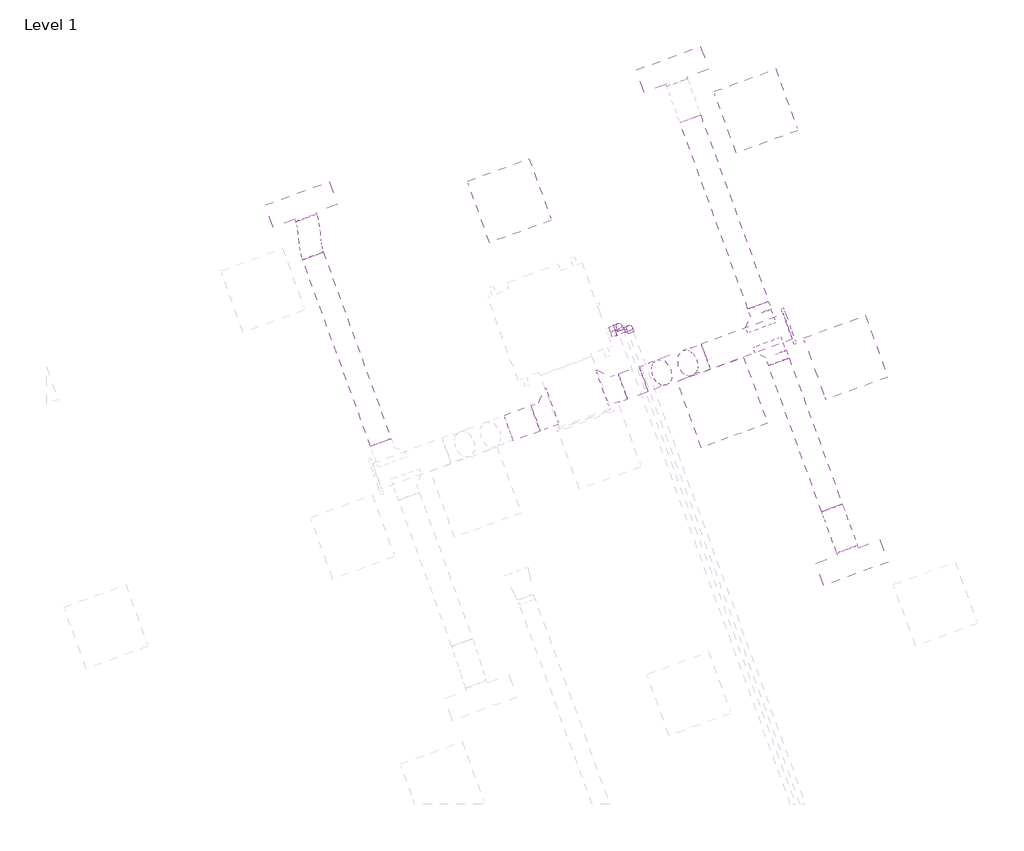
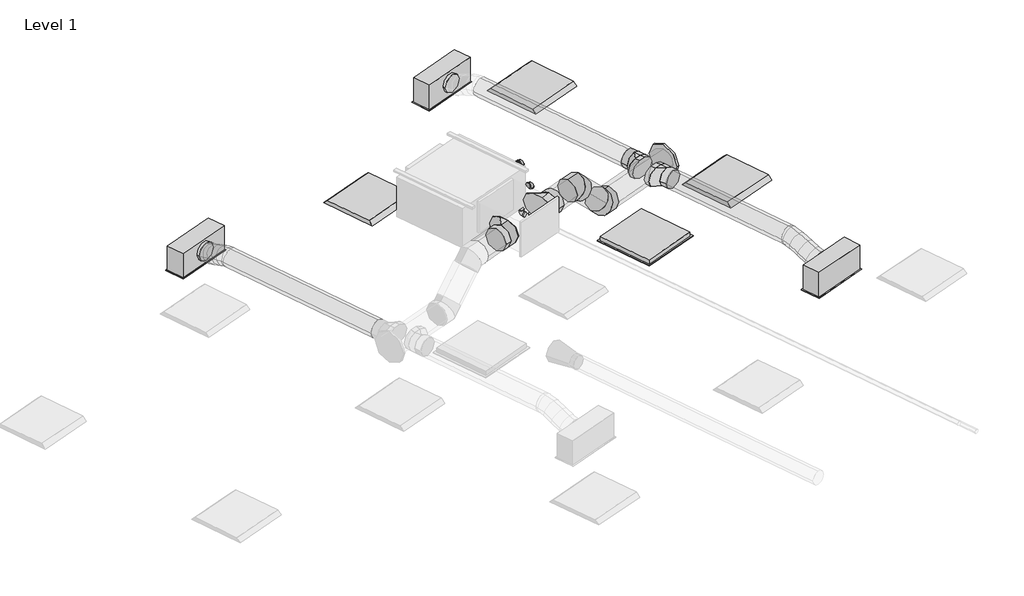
# One storey, part 29 of 30: 9 duct segments, 7 duct fittings, 6 pipe fittings, 4 air terminals, 3 light fixtures, 1 pipe segment.
"""IFC4 building model written with IfcOpenShell, lengths in millimetres."""

from ifc_helpers import new_model, si_unit, point, frame, frame_2d, origin, place, context, project, spatial, circle_curve, ellipse_curve, trimmed, segment, composite_curve, outline, extrude, transform, mapped, element, save
from ifc_brep_helpers import plane_surface, cylinder_surface, advanced_brep
from components import return_grille_rectangular_hosted_standard_7b12617c, supply_diffuser_with_plenum_linear_slot_hosted_8c379eed, dw144_round_blank_end_standard_e3d0b58b, dw144_round_segmented_bend_slip_joint_standard_636bd9c1, dw144_round_shoe_branch_slip_joint1_standard_2_15a2edd8, dw144_round_shoe_branch_slip_joint1_standard_2_4a92c8a1, dw144_round_shoe_branch_slip_joint1_standard_2_671412f0, light_fixture_1c7c1157, light_fixture_b730b5ca, elbow_threaded_gmi_standard_b4aa7741, socket_reducing_threaded_gmi_standard_0a4076b8

model = new_model("IFC4")

# Units and contexts
model_context = context("Model", 3, world=origin())
ifc_project = project(units=[si_unit("LENGTHUNIT", "METRE", prefix="MILLI")], contexts=[model_context])

# Site, building, storey
site = spatial("IfcSite", under=ifc_project)
building = spatial("IfcBuilding", under=site)
storey = spatial("IfcBuildingStorey", under=building, Name="Level 1", Elevation=3900.0)

# Air terminals
placement = place(None, origin())
return_grille_rectangular_hosted_standard_shape = return_grille_rectangular_hosted_standard_7b12617c(model_context)
element("IfcAirTerminal", 1, ObjectType="Return Grille - Rectangular - Hosted : Standard", at=placement, inside=storey, context=model_context, shape_type="MappedRepresentation", body=[
    mapped(return_grille_rectangular_hosted_standard_shape, transform((59882.1171416, 21518.6590285, 6700.0), x_axis=(0.939692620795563, 0.34202014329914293, 0.0), y_axis=(0.34202014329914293, -0.939692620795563, 0.0), z_axis=(0.0, 0.0, -1.0))),
])
supply_diffuser_with_plenum_linear_slot_hosted_shape = supply_diffuser_with_plenum_linear_slot_hosted_8c379eed(model_context)
element("IfcAirTerminal", 2, ObjectType="Supply Diffuser with Plenum - Linear Slot - Hosted : 24\" x 8\"-200 In Inlet  4-Slot", at=placement, inside=storey, context=model_context, shape_type="MappedRepresentation", body=[
    mapped(supply_diffuser_with_plenum_linear_slot_hosted_shape, transform((56030.8737895, 23328.4499742, 6700.0), x_axis=(-0.9396926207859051, -0.3420201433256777, 0.0), y_axis=(-0.3420201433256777, 0.9396926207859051, 0.0), z_axis=(0.0, 0.0, -1.0))),
])
element("IfcAirTerminal", 3, ObjectType="Supply Diffuser with Plenum - Linear Slot - Hosted : 24\" x 8\"-200 In Inlet  4-Slot", at=placement, inside=storey, context=model_context, shape_type="MappedRepresentation", body=[
    mapped(supply_diffuser_with_plenum_linear_slot_hosted_shape, transform((59424.7616276, 24563.7241257, 6700.0), x_axis=(-0.9396926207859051, -0.3420201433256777, 0.0), y_axis=(-0.3420201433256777, 0.9396926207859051, 0.0), z_axis=(0.0, 0.0, -1.0))),
])
element("IfcAirTerminal", 4, ObjectType="Supply Diffuser with Plenum - Linear Slot - Hosted : 24\" x 8\"-200 In Inlet  4-Slot", at=placement, inside=storey, context=model_context, shape_type="MappedRepresentation", body=[
    mapped(supply_diffuser_with_plenum_linear_slot_hosted_shape, transform((61066.4583156, 20053.199546, 6700.0), x_axis=(0.939692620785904, 0.342020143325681, 0.0), y_axis=(0.342020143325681, -0.939692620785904, 0.0), z_axis=(0.0, 0.0, -1.0))),
])

# Duct fittings
dw144_round_blank_end_standard_shape = dw144_round_blank_end_standard_e3d0b58b(model_context)
element("IfcDuctFitting", 5, ObjectType="DW144 Round Blank End : Standard", at=placement, inside=storey, context=model_context, shape_type="MappedRepresentation", body=[
    mapped(dw144_round_blank_end_standard_shape, transform((60480.0687344, 22212.6690304, 6972.2088531), x_axis=(0.9396926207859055, 0.3420201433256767, 0.0), y_axis=(-0.3420201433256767, 0.9396926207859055, 0.0), z_axis=(0.0, 0.0, 1.0))),
])
dw144_round_segmented_bend_slip_joint_standard_shape = dw144_round_segmented_bend_slip_joint_standard_636bd9c1(model_context)
element("IfcDuctFitting", 6, ObjectType="DW144 Round Segmented Bend - Slip Joint : Standard", at=placement, inside=storey, context=model_context, shape_type="MappedRepresentation", body=[
    mapped(dw144_round_segmented_bend_slip_joint_standard_shape, transform((59632.1186201, 21904.0404287, 6972.2088531), x_axis=(0.6644630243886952, 0.24184476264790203, -0.7071067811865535), y_axis=(0.6644630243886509, 0.2418447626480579, 0.7071067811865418), z_axis=(0.3420201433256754, -0.939692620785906, 0.0))),
])
element("IfcDuctFitting", 7, ObjectType="DW144 Round Segmented Bend - Slip Joint : Standard", at=placement, inside=storey, context=model_context, shape_type="MappedRepresentation", body=[
    mapped(dw144_round_segmented_bend_slip_joint_standard_shape, transform((59258.7165841, 21768.1332022, 7369.575), x_axis=(0.9396926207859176, 0.3420201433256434, 0.0), y_axis=(0.0, 0.0, -1.0), z_axis=(-0.3420201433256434, 0.9396926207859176, 0.0))),
])
dw144_round_shoe_branch_slip_joint1_standard_2_shape = dw144_round_shoe_branch_slip_joint1_standard_2_15a2edd8(model_context)
element("IfcDuctFitting", 8, ObjectType="DW144 Round Shoe Branch - Slip Joint1 : Standard 2", at=placement, inside=storey, context=model_context, shape_type="MappedRepresentation", body=[
    mapped(dw144_round_shoe_branch_slip_joint1_standard_2_shape, transform((60261.0711331, 22265.9826437, 6972.2088531), x_axis=(-0.3420201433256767, 0.9396926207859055, 0.0), y_axis=(0.9396926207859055, 0.3420201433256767, 0.0), z_axis=(0.0, 0.0, -1.0))),
])
element("IfcDuctFitting", 9, ObjectType="DW144 Round Shoe Branch - Slip Joint1 : Standard 2", at=placement, inside=storey, context=model_context, shape_type="MappedRepresentation", body=[
    mapped(dw144_round_shoe_branch_slip_joint1_standard_2_shape, transform((60346.5761689, 22031.0594885, 6972.2088531), x_axis=(0.3420201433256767, -0.9396926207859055, 0.0), y_axis=(0.9396926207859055, 0.3420201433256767, 0.0), z_axis=(0.0, 0.0, 1.0))),
])
dw144_round_shoe_branch_slip_joint1_standard_2_2_shape = dw144_round_shoe_branch_slip_joint1_standard_2_4a92c8a1(model_context)
element("IfcDuctFitting", 10, ObjectType="DW144 Round Shoe Branch - Slip Joint1 : Standard 2", at=placement, inside=storey, context=model_context, shape_type="MappedRepresentation", body=[
    mapped(dw144_round_shoe_branch_slip_joint1_standard_2_2_shape, transform((58807.6641261, 21603.9635334, 7369.575), x_axis=(0.9396926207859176, 0.3420201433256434, 0.0), y_axis=(0.3420201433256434, -0.9396926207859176, 0.0), z_axis=(0.0, 0.0, -1.0))),
])
dw144_round_shoe_branch_slip_joint1_standard_2_3_shape = dw144_round_shoe_branch_slip_joint1_standard_2_671412f0(model_context)
element("IfcDuctFitting", 11, ObjectType="DW144 Round Shoe Branch - Slip Joint1 : Standard 2", at=placement, inside=storey, context=model_context, shape_type="MappedRepresentation", body=[
    mapped(dw144_round_shoe_branch_slip_joint1_standard_2_3_shape, transform((58337.8178157, 21432.9534617, 7369.575), x_axis=(-0.9396926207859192, -0.3420201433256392, 0.0), y_axis=(-0.3420201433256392, 0.9396926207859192, 0.0), z_axis=(0.0, 0.0, -1.0))),
])

# Duct segments
element("IfcDuctSegment", 12, ObjectType="DW144 Segmented Bend / Shoe Branch", at=placement, inside=storey, context=model_context, shape_type="SweptSolid", body=[
    extrude(outline(composite_curve([segment(trimmed(circle_curve(frame_2d((0.0, -125.0)), 125.0), [point((-125.0, -125.0))], [point((0.0, 0.0))], False, "CARTESIAN"), True, "CONTINUOUS"), segment(trimmed(circle_curve(frame_2d((0.0, -125.0)), 125.0), [point((0.0, 0.0))], [point((125.0, -125.0))], False, "CARTESIAN"), True, "CONTINUOUS"), segment(trimmed(circle_curve(frame_2d((0.0, -125.0)), 125.0), [point((125.0, -125.0))], [point((0.0, -250.0))], False, "CARTESIAN"), True, "CONTINUOUS"), segment(trimmed(circle_curve(frame_2d((0.0, -125.0)), 125.0), [point((0.0, -250.0))], [point((-125.0, -125.0))], False, "CARTESIAN"), True, "CONTINUOUS")], self_intersect=False)), frame((59729.4269771, 21939.4577742, 6847.2088531), z_axis=(0.9396926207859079, 0.3420201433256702, 0.0), x_axis=(0.3420201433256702, -0.9396926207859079, 0.0)), (0.0, 0.0, 1.0), 798.8162732),
])
element("IfcDuctSegment", 13, ObjectType="DW144 Segmented Bend / Shoe Branch", at=placement, inside=storey, context=model_context, shape_type="SweptSolid", body=[
    extrude(outline(composite_curve([segment(trimmed(circle_curve(frame_2d((0.0, 100.0)), 100.0), [point((100.0, 100.0))], [point((0.0, 0.0))], False, "CARTESIAN"), True, "CONTINUOUS"), segment(trimmed(circle_curve(frame_2d((0.0, 100.0)), 100.0), [point((0.0, 0.0))], [point((-100.0, 100.0))], False, "CARTESIAN"), True, "CONTINUOUS"), segment(trimmed(circle_curve(frame_2d((0.0, 100.0)), 100.0), [point((-100.0, 100.0))], [point((0.0, 200.0))], False, "CARTESIAN"), True, "CONTINUOUS"), segment(trimmed(circle_curve(frame_2d((0.0, 100.0)), 100.0), [point((0.0, 200.0))], [point((100.0, 100.0))], False, "CARTESIAN"), True, "CONTINUOUS")], self_intersect=False)), frame((60209.7681116, 22406.9365369, 7072.2088531), z_axis=(-0.3420201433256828, 0.9396926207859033, 0.0), x_axis=(0.9396926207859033, 0.3420201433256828, 0.0)), (0.0, 0.0, 1.0), 1816.9035933),
])
element("IfcDuctSegment", 14, ObjectType="DW144 Segmented Bend / Shoe Branch", at=placement, inside=storey, context=model_context, shape_type="SweptSolid", body=[
    extrude(outline(composite_curve([segment(trimmed(circle_curve(frame_2d((0.0, -100.0)), 100.0), [point((-99.9999999, -100.0))], [point((0.0, 0.0))], False, "CARTESIAN"), True, "CONTINUOUS"), segment(trimmed(circle_curve(frame_2d((0.0, -100.0)), 100.0), [point((0.0, 0.0))], [point((100.0, -100.0))], False, "CARTESIAN"), True, "CONTINUOUS"), segment(trimmed(circle_curve(frame_2d((0.0, -100.0)), 100.0), [point((100.0, -100.0))], [point((0.0, -200.0))], False, "CARTESIAN"), True, "CONTINUOUS"), segment(trimmed(circle_curve(frame_2d((0.0, -100.0)), 100.0), [point((0.0, -200.0))], [point((-99.9999999, -100.0))], False, "CARTESIAN"), True, "CONTINUOUS")], self_intersect=False)), frame((60884.6068274, 20552.8324034, 6872.2088531), z_axis=(-0.3420201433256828, 0.9396926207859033, 0.0), x_axis=(0.9396926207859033, 0.3420201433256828, 0.0)), (0.0, 0.0, 1.0), 1423.0964067),
])
element("IfcDuctSegment", 15, ObjectType="DW144 Segmented Bend / Shoe Branch", at=placement, inside=storey, context=model_context, shape_type="SweptSolid", body=[
    extrude(outline(composite_curve([segment(trimmed(circle_curve(frame_2d((0.0, -100.0)), 100.0), [point((-99.9999999, -100.0))], [point((0.0, 0.0))], False, "CARTESIAN"), True, "CONTINUOUS"), segment(trimmed(circle_curve(frame_2d((0.0, -100.0)), 100.0), [point((0.0, 0.0))], [point((100.0, -100.0))], False, "CARTESIAN"), True, "CONTINUOUS"), segment(trimmed(circle_curve(frame_2d((0.0, -100.0)), 100.0), [point((100.0, -100.0))], [point((0.0, -200.0))], False, "CARTESIAN"), True, "CONTINUOUS"), segment(trimmed(circle_curve(frame_2d((0.0, -100.0)), 100.0), [point((0.0, -200.0))], [point((-99.9999999, -100.0))], False, "CARTESIAN"), True, "CONTINUOUS")], self_intersect=False)), frame((56758.3225226, 21150.7130773, 6872.2088531), z_axis=(-0.3420201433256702, 0.9396926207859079, 0.0), x_axis=(0.9396926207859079, 0.3420201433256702, 0.0)), (0.0, 0.0, 1.0), 1816.9035933),
])
element("IfcDuctSegment", 16, ObjectType="DW144 Segmented Bend / Shoe Branch", at=placement, inside=storey, context=model_context, shape_type="SweptSolid", body=[
    extrude(outline(composite_curve([segment(trimmed(circle_curve(frame_2d((0.0, 125.0)), 125.0), [point((125.0, 125.0))], [point((0.0, 0.0))], False, "CARTESIAN"), True, "CONTINUOUS"), segment(trimmed(circle_curve(frame_2d((0.0, 125.0)), 125.0), [point((0.0, 0.0))], [point((-124.9999999, 125.0))], False, "CARTESIAN"), True, "CONTINUOUS"), segment(trimmed(circle_curve(frame_2d((0.0, 125.0)), 125.0), [point((-124.9999999, 125.0))], [point((0.0, 250.0))], False, "CARTESIAN"), True, "CONTINUOUS"), segment(trimmed(circle_curve(frame_2d((0.0, 125.0)), 125.0), [point((0.0, 250.0))], [point((125.0, 125.0))], False, "CARTESIAN"), True, "CONTINUOUS")], self_intersect=False)), frame((58972.1103348, 21663.8170585, 7494.575), z_axis=(0.9396926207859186, 0.3420201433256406, 0.0), x_axis=(0.3420201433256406, -0.9396926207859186, 0.0)), (0.0, 0.0, 1.0), 201.4466094),
])
element("IfcDuctSegment", 17, ObjectType="DW144 Segmented Bend / Shoe Branch", at=placement, inside=storey, context=model_context, shape_type="SweptSolid", body=[
    extrude(outline(composite_curve([segment(trimmed(circle_curve(frame_2d((0.0, -125.0)), 125.0), [point((-125.0, -125.0))], [point((0.0, 0.0))], False, "CARTESIAN"), True, "CONTINUOUS"), segment(trimmed(circle_curve(frame_2d((0.0, -125.0)), 125.0), [point((0.0, 0.0))], [point((125.0, -125.0))], False, "CARTESIAN"), True, "CONTINUOUS"), segment(trimmed(circle_curve(frame_2d((0.0, -125.0)), 125.0), [point((125.0, -125.0))], [point((0.0, -250.0))], False, "CARTESIAN"), True, "CONTINUOUS"), segment(trimmed(circle_curve(frame_2d((0.0, -125.0)), 125.0), [point((0.0, -250.0))], [point((-125.0, -125.0))], False, "CARTESIAN"), True, "CONTINUOUS")], self_intersect=False)), frame((57927.6921575, 21283.6799298, 7244.575), z_axis=(0.9396926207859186, 0.3420201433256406, 0.0), x_axis=(0.3420201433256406, -0.9396926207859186, 0.0)), (0.0, 0.0, 1.0), 261.4466094),
])
element("IfcDuctSegment", 18, ObjectType="DW144 Segmented Bend / Shoe Branch", at=placement, inside=storey, context=model_context, shape_type="SweptSolid", body=[
    extrude(outline(composite_curve([segment(trimmed(circle_curve(frame_2d((0.0, -125.0)), 125.0), [point((57.2076922, -236.1408113))], [point((-111.1408114, -182.2076922))], False, "CARTESIAN"), True, "CONTINUOUS"), segment(trimmed(circle_curve(frame_2d((0.0, -125.0)), 125.0), [point((-111.1408114, -182.2076922))], [point((-57.2076923, -13.8591886))], False, "CARTESIAN"), True, "CONTINUOUS"), segment(trimmed(circle_curve(frame_2d((0.0, -125.0)), 125.0), [point((-57.2076923, -13.8591886))], [point((111.1408113, -67.7923077))], False, "CARTESIAN"), True, "CONTINUOUS"), segment(trimmed(circle_curve(frame_2d((0.0, -125.0)), 125.0), [point((111.1408113, -67.7923077))], [point((57.2076922, -236.1408113))], False, "CARTESIAN"), True, "CONTINUOUS")], self_intersect=False)), frame((59563.311221, 21997.2701645, 7085.884105), z_axis=(-0.6644630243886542, -0.2418447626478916, 0.7071067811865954), x_axis=(0.7473211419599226, -0.21503058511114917, 0.6287073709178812)), (0.0, 0.0, 1.0), 354.8538129),
])
element("IfcDuctSegment", 19, ObjectType="Flex - Round", at=placement, inside=storey, context=model_context, shape_type="AdvancedBrep", body=[
    advanced_brep(
    [(60978.5760895, 20587.0344177, 6972.2088531), (60884.6068274, 20552.8324034, 6872.2088531), (60790.6375654, 20518.630389, 6972.2088531), (60884.6068274, 20552.8324034, 7072.2088531), (60984.6341083, 20570.390148, 6972.2088531), (60886.9856485, 20546.2966462, 6872.2088531), (60796.6955841, 20501.9861193, 6972.2088531), (60894.3440439, 20526.0796211, 7072.2088531), (61116.3411812, 20208.5279391, 6854.4), (61022.3719191, 20174.3259248, 6954.4), (60928.402657, 20140.1239105, 6854.4), (61022.3719191, 20174.3259248, 6754.4), (61013.5584383, 20490.9212042, 6953.8012198), (60909.4076043, 20484.6928288, 6857.9393734), (60825.6199142, 20422.5171755, 6953.8012198), (60929.7707482, 20428.7455509, 7049.6630662), (61047.4586353, 20397.7811784, 6913.3044266), (60940.5534043, 20399.1204467, 6820.7329518), (60859.5201112, 20329.3771497, 6913.3044266), (60966.4253422, 20328.0378815, 7005.8759013), (61081.3588323, 20304.6411526, 6872.8076333), (60977.2079983, 20298.4127773, 6776.9457869), (60893.4203082, 20236.237124, 6872.8076333), (60997.5711422, 20242.4654993, 6968.6694797), (61110.2831624, 20225.1722089, 6854.4), (61012.6347027, 20201.0787071, 6754.4), (60922.3446383, 20156.7681802, 6854.4), (61019.993098, 20180.861682, 6954.4)],
    [
        (0, 1, circle_curve(frame((60884.6068274, 20552.8324034, 6972.2088531), z_axis=(-0.3420201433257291, 0.9396926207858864, 0.0), x_axis=(0.9396926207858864, 0.3420201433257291, 0.0)), 100.0)),
        (1, 2, circle_curve(frame((60884.6068274, 20552.8324034, 6972.2088531), z_axis=(-0.3420201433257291, 0.9396926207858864, 0.0), x_axis=(0.9396926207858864, 0.3420201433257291, 0.0)), 100.0)),
        (2, 3, circle_curve(frame((60884.6068274, 20552.8324034, 6972.2088531), z_axis=(-0.3420201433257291, 0.9396926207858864, 0.0), x_axis=(0.9396926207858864, 0.3420201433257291, 0.0)), 100.0)),
        (3, 0, circle_curve(frame((60884.6068274, 20552.8324034, 6972.2088531), z_axis=(-0.3420201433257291, 0.9396926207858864, 0.0), x_axis=(0.9396926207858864, 0.3420201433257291, 0.0)), 100.0)),
        (0, 4),
        (4, 5, ellipse_curve(frame((60890.6648462, 20536.1881336, 6972.2088531), z_axis=(-0.34005825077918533, 0.9343023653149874, 0.1069554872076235), x_axis=(-0.03658093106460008, 0.10050528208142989, -0.9942638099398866)), 100.5769284, 100.0)),
        (5, 1),
        (5, 6, ellipse_curve(frame((60890.6648462, 20536.1881336, 6972.2088531), z_axis=(-0.34005825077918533, 0.9343023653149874, 0.1069554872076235), x_axis=(-0.03658093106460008, 0.10050528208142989, -0.9942638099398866)), 100.5769284, 100.0)),
        (6, 2),
        (6, 7, ellipse_curve(frame((60890.6648462, 20536.1881336, 6972.2088531), z_axis=(-0.34005825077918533, 0.9343023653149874, 0.1069554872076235), x_axis=(-0.03658093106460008, 0.10050528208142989, -0.9942638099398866)), 100.5769284, 100.0)),
        (7, 3),
        (7, 4, ellipse_curve(frame((60890.6648462, 20536.1881336, 6972.2088531), z_axis=(-0.34005825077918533, 0.9343023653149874, 0.1069554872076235), x_axis=(-0.03658093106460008, 0.10050528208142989, -0.9942638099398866)), 100.5769284, 100.0)),
        (8, 9, circle_curve(frame((61022.3719191, 20174.3259248, 6854.4), z_axis=(0.3420201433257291, -0.9396926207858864, 0.0), x_axis=(0.9396926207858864, 0.3420201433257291, 0.0)), 100.0)),
        (9, 10, circle_curve(frame((61022.3719191, 20174.3259248, 6854.4), z_axis=(0.3420201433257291, -0.9396926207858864, 0.0), x_axis=(0.9396926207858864, 0.3420201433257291, 0.0)), 100.0)),
        (10, 11, circle_curve(frame((61022.3719191, 20174.3259248, 6854.4), z_axis=(0.3420201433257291, -0.9396926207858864, 0.0), x_axis=(0.9396926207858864, 0.3420201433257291, 0.0)), 100.0)),
        (11, 8, circle_curve(frame((61022.3719191, 20174.3259248, 6854.4), z_axis=(0.3420201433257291, -0.9396926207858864, 0.0), x_axis=(0.9396926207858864, 0.3420201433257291, 0.0)), 100.0)),
        (4, 12),
        (12, 13, ellipse_curve(frame((60919.5891763, 20456.7191898, 6953.8012198), z_axis=(-0.32663313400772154, 0.8974171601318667, 0.2965691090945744), x_axis=(-0.10143260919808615, 0.2786838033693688, -0.9550113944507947)), 100.3776991, 100.0)),
        (13, 5),
        (13, 14, ellipse_curve(frame((60919.5891763, 20456.7191898, 6953.8012198), z_axis=(-0.32663313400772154, 0.8974171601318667, 0.2965691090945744), x_axis=(-0.10143260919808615, 0.2786838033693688, -0.9550113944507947)), 100.3776991, 100.0)),
        (14, 6),
        (14, 15, ellipse_curve(frame((60919.5891763, 20456.7191898, 6953.8012198), z_axis=(-0.32663313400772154, 0.8974171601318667, 0.2965691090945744), x_axis=(-0.10143260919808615, 0.2786838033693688, -0.9550113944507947)), 100.3776991, 100.0)),
        (15, 7),
        (15, 12, ellipse_curve(frame((60919.5891763, 20456.7191898, 6953.8012198), z_axis=(-0.32663313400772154, 0.8974171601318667, 0.2965691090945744), x_axis=(-0.10143260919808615, 0.2786838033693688, -0.9550113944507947)), 100.3776991, 100.0)),
        (12, 16),
        (16, 17, circle_curve(frame((60953.4893733, 20363.5791641, 6913.3044266), z_axis=(-0.3166130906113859, 0.8698873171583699, 0.3782224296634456), x_axis=(0.939692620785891, 0.34202014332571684, 0.0)), 100.0)),
        (17, 13),
        (17, 18, circle_curve(frame((60953.4893733, 20363.5791641, 6913.3044266), z_axis=(-0.3166130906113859, 0.8698873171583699, 0.3782224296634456), x_axis=(0.939692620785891, 0.34202014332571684, 0.0)), 100.0)),
        (18, 14),
        (18, 19, circle_curve(frame((60953.4893733, 20363.5791641, 6913.3044266), z_axis=(-0.3166130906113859, 0.8698873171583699, 0.3782224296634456), x_axis=(0.939692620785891, 0.34202014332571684, 0.0)), 100.0)),
        (19, 15),
        (19, 16, circle_curve(frame((60953.4893733, 20363.5791641, 6913.3044266), z_axis=(-0.3166130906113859, 0.8698873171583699, 0.3782224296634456), x_axis=(0.939692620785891, 0.34202014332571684, 0.0)), 100.0)),
        (16, 20),
        (20, 21, ellipse_curve(frame((60987.3895703, 20270.4391383, 6872.8076333), z_axis=(-0.3266331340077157, 0.8974171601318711, 0.2965691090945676), x_axis=(0.10143260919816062, -0.2786838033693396, 0.9550113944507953)), 100.3776991, 100.0)),
        (21, 17),
        (21, 22, ellipse_curve(frame((60987.3895703, 20270.4391383, 6872.8076333), z_axis=(-0.3266331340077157, 0.8974171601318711, 0.2965691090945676), x_axis=(0.10143260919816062, -0.2786838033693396, 0.9550113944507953)), 100.3776991, 100.0)),
        (22, 18),
        (22, 23, ellipse_curve(frame((60987.3895703, 20270.4391383, 6872.8076333), z_axis=(-0.3266331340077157, 0.8974171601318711, 0.2965691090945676), x_axis=(0.10143260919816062, -0.2786838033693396, 0.9550113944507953)), 100.3776991, 100.0)),
        (23, 19),
        (23, 20, ellipse_curve(frame((60987.3895703, 20270.4391383, 6872.8076333), z_axis=(-0.3266331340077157, 0.8974171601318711, 0.2965691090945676), x_axis=(0.10143260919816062, -0.2786838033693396, 0.9550113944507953)), 100.3776991, 100.0)),
        (20, 24),
        (24, 25, ellipse_curve(frame((61016.3139004, 20190.9701945, 6854.4), z_axis=(-0.34005825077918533, 0.9343023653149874, 0.10695548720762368), x_axis=(0.03658093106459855, -0.10050528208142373, 0.9942638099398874)), 100.5769284, 100.0)),
        (25, 21),
        (25, 26, ellipse_curve(frame((61016.3139004, 20190.9701945, 6854.4), z_axis=(-0.34005825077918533, 0.9343023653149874, 0.10695548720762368), x_axis=(0.03658093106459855, -0.10050528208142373, 0.9942638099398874)), 100.5769284, 100.0)),
        (26, 22),
        (26, 27, ellipse_curve(frame((61016.3139004, 20190.9701945, 6854.4), z_axis=(-0.34005825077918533, 0.9343023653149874, 0.10695548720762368), x_axis=(0.03658093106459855, -0.10050528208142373, 0.9942638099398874)), 100.5769284, 100.0)),
        (27, 23),
        (27, 24, ellipse_curve(frame((61016.3139004, 20190.9701945, 6854.4), z_axis=(-0.34005825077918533, 0.9343023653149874, 0.10695548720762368), x_axis=(0.03658093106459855, -0.10050528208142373, 0.9942638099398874)), 100.5769284, 100.0)),
        (24, 8),
        (11, 25),
        (10, 26),
        (9, 27),
    ],
    [
        plane_surface(frame((60884.6068274, 20552.8324034, 6872.2088531), z_axis=(-0.3420201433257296, 0.9396926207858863, 0.0), x_axis=(0.9396926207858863, 0.3420201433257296, 0.0))),
        cylinder_surface(frame((60884.6068274, 20552.8324034, 6972.2088531), z_axis=(-0.3420201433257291, 0.9396926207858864, 0.0), x_axis=(0.9396926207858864, 0.3420201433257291, 0.0)), 100.0),
        plane_surface(frame((61022.3719191, 20174.3259248, 6754.4), z_axis=(0.3420201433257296, -0.9396926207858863, 0.0), x_axis=(0.9396926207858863, 0.3420201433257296, 0.0))),
        cylinder_surface(frame((60890.6648462, 20536.1881336, 6972.2088531), z_axis=(-0.3341950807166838, 0.9181934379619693, 0.21268394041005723), x_axis=(0.9396926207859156, 0.342020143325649, 0.0)), 100.0),
        cylinder_surface(frame((60919.5891763, 20456.7191898, 6953.8012198), z_axis=(-0.31661309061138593, 0.8698873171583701, 0.3782224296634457), x_axis=(0.939692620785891, 0.34202014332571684, 0.0)), 100.0),
        cylinder_surface(frame((60953.4893733, 20363.5791641, 6913.3044266), z_axis=(-0.3166130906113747, 0.86988731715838, 0.3782224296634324), x_axis=(0.9396926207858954, 0.34202014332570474, 0.0)), 100.0),
        cylinder_surface(frame((60987.3895703, 20270.4391383, 6872.8076333), z_axis=(-0.3341950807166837, 0.9181934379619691, 0.2126839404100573), x_axis=(0.9396926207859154, 0.3420201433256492, 0.0)), 100.0),
        cylinder_surface(frame((61016.3139004, 20190.9701945, 6854.4), z_axis=(-0.3420201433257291, 0.9396926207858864, 0.0), x_axis=(0.9396926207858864, 0.3420201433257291, 0.0)), 100.0),
    ],
    [
        (0, [[1, 2, 3, 4]]),
        (1, [[-1, 5, 6, 7]]),
        (1, [[-2, -7, 8, 9]]),
        (1, [[-3, -9, 10, 11]]),
        (1, [[-4, -11, 12, -5]]),
        (2, [[13, 14, 15, 16]]),
        (3, [[-6, 17, 18, 19]]),
        (3, [[-8, -19, 20, 21]]),
        (3, [[-10, -21, 22, 23]]),
        (3, [[-12, -23, 24, -17]]),
        (4, [[-18, 25, 26, 27]]),
        (4, [[-20, -27, 28, 29]]),
        (4, [[-22, -29, 30, 31]]),
        (4, [[-24, -31, 32, -25]]),
        (5, [[-26, 33, 34, 35]]),
        (5, [[-28, -35, 36, 37]]),
        (5, [[-30, -37, 38, 39]]),
        (5, [[-32, -39, 40, -33]]),
        (6, [[-34, 41, 42, 43]]),
        (6, [[-36, -43, 44, 45]]),
        (6, [[-38, -45, 46, 47]]),
        (6, [[-40, -47, 48, -41]]),
        (7, [[-42, 49, -16, 50]]),
        (7, [[-44, -50, -15, 51]]),
        (7, [[-46, -51, -14, 52]]),
        (7, [[-48, -52, -13, -49]]),
    ],
),
])
element("IfcDuctSegment", 20, ObjectType="Flex - Round", at=placement, inside=storey, context=model_context, shape_type="AdvancedBrep", body=[
    advanced_brep(
    [(56042.9356332, 22823.8419622, 6972.2088531), (56136.9048953, 22858.0439766, 6872.2088531), (56230.8741573, 22892.2459909, 6972.2088531), (56136.9048953, 22858.0439766, 7072.2088531), (56035.3051782, 22844.8064651, 6972.2088531), (56134.9205882, 22863.4958155, 6872.2088531), (56227.1064859, 22902.5975832, 6972.2088531), (56127.4910759, 22883.9082328, 7072.2088531), (55980.9909239, 23173.1215811, 6854.4), (56074.960186, 23207.3235954, 6954.4), (56168.9294481, 23241.5256098, 6854.4), (56074.960186, 23207.3235954, 6754.4), (56019.9356201, 22909.0271134, 6957.7411781), (56126.4316394, 22898.9663078, 6864.2180345), (56216.4442619, 22947.1489575, 6962.1722867), (56109.9482426, 22957.209763, 7055.6954303), (56009.9161011, 22984.7896454, 6926.0114711), (56118.732048, 22957.1867215, 6839.8350497), (56208.0119096, 23010.9101379, 6935.4688025), (56099.1959627, 23038.5130618, 7021.645224), (56003.8531716, 23054.4574341, 6891.1400506), (56112.6691186, 23026.8545102, 6804.9636291), (56201.9489802, 23080.5779266, 6900.597382), (56093.1330333, 23108.1808505, 6986.7738035), (55995.4208194, 23118.2186145, 6864.4365665), (56101.9168387, 23108.157809, 6770.9134228), (56191.9294612, 23156.3404586, 6868.867675), (56085.4334419, 23166.4012642, 6962.3908187), (55984.7585954, 23162.7699888, 6854.4), (56084.3740054, 23181.4593392, 6754.4), (56176.5599031, 23220.5611069, 6854.4), (56076.9444931, 23201.8717565, 6954.4)],
    [
        (0, 1, circle_curve(frame((56136.9048953, 22858.0439766, 6972.2088531), z_axis=(0.3420201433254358, -0.9396926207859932, 0.0), x_axis=(-0.9396926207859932, -0.3420201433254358, 0.0)), 100.0)),
        (1, 2, circle_curve(frame((56136.9048953, 22858.0439766, 6972.2088531), z_axis=(0.3420201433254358, -0.9396926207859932, 0.0), x_axis=(-0.9396926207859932, -0.3420201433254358, 0.0)), 100.0)),
        (2, 3, circle_curve(frame((56136.9048953, 22858.0439766, 6972.2088531), z_axis=(0.3420201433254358, -0.9396926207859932, 0.0), x_axis=(-0.9396926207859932, -0.3420201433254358, 0.0)), 100.0)),
        (3, 0, circle_curve(frame((56136.9048953, 22858.0439766, 6972.2088531), z_axis=(0.3420201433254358, -0.9396926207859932, 0.0), x_axis=(-0.9396926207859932, -0.3420201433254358, 0.0)), 100.0)),
        (0, 4),
        (4, 5, ellipse_curve(frame((56131.205832, 22873.7020241, 6972.2088531), z_axis=(0.2868145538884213, -0.9519007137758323, 0.10780743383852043), x_axis=(0.471826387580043, 0.0424244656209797, -0.8806702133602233)), 100.746488, 100.0)),
        (5, 1),
        (5, 6, ellipse_curve(frame((56131.205832, 22873.7020241, 6972.2088531), z_axis=(0.2868145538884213, -0.9519007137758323, 0.10780743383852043), x_axis=(0.471826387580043, 0.0424244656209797, -0.8806702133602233)), 100.746488, 100.0)),
        (6, 2),
        (6, 7, ellipse_curve(frame((56131.205832, 22873.7020241, 6972.2088531), z_axis=(0.2868145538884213, -0.9519007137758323, 0.10780743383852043), x_axis=(0.471826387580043, 0.0424244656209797, -0.8806702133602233)), 100.746488, 100.0)),
        (7, 3),
        (7, 4, ellipse_curve(frame((56131.205832, 22873.7020241, 6972.2088531), z_axis=(0.2868145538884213, -0.9519007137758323, 0.10780743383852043), x_axis=(0.471826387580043, 0.0424244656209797, -0.8806702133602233)), 100.746488, 100.0)),
        (8, 9, circle_curve(frame((56074.960186, 23207.3235954, 6854.4), z_axis=(-0.34202014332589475, 0.9396926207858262, 0.0), x_axis=(-0.9396926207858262, -0.34202014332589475, 0.0)), 100.0)),
        (9, 10, circle_curve(frame((56074.960186, 23207.3235954, 6854.4), z_axis=(-0.34202014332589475, 0.9396926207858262, 0.0), x_axis=(-0.9396926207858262, -0.34202014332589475, 0.0)), 100.0)),
        (10, 11, circle_curve(frame((56074.960186, 23207.3235954, 6854.4), z_axis=(-0.34202014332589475, 0.9396926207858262, 0.0), x_axis=(-0.9396926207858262, -0.34202014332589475, 0.0)), 100.0)),
        (11, 8, circle_curve(frame((56074.960186, 23207.3235954, 6854.4), z_axis=(-0.34202014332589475, 0.9396926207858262, 0.0), x_axis=(-0.9396926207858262, -0.34202014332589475, 0.0)), 100.0)),
        (4, 12),
        (12, 13, ellipse_curve(frame((56118.189941, 22928.0880354, 6959.9567324), z_axis=(0.17512607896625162, -0.937635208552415, 0.3002849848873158), x_axis=(0.5236540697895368, -0.16957305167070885, -0.8348840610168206)), 100.5188435, 100.0)),
        (13, 5),
        (13, 14, ellipse_curve(frame((56118.189941, 22928.0880354, 6959.9567324), z_axis=(0.17512607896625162, -0.937635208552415, 0.3002849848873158), x_axis=(0.5236540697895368, -0.16957305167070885, -0.8348840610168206)), 100.5188435, 100.0)),
        (14, 6),
        (14, 15, ellipse_curve(frame((56118.189941, 22928.0880354, 6959.9567324), z_axis=(0.17512607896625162, -0.937635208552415, 0.3002849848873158), x_axis=(0.5236540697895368, -0.16957305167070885, -0.8348840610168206)), 100.5188435, 100.0)),
        (15, 7),
        (15, 12, ellipse_curve(frame((56118.189941, 22928.0880354, 6959.9567324), z_axis=(0.17512607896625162, -0.937635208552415, 0.3002849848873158), x_axis=(0.5236540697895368, -0.16957305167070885, -0.8348840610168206)), 100.5188435, 100.0)),
        (12, 16),
        (16, 17, ellipse_curve(frame((56108.9640053, 22997.8498917, 6930.7401368), z_axis=(0.09941622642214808, -0.9042889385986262, 0.4151842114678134), x_axis=(0.5431382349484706, -0.3002937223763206, -0.7841074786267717)), 100.0802707, 100.0)),
        (17, 13),
        (17, 18, ellipse_curve(frame((56108.9640053, 22997.8498917, 6930.7401368), z_axis=(0.09941622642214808, -0.9042889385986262, 0.4151842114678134), x_axis=(0.5431382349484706, -0.3002937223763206, -0.7841074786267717)), 100.0802707, 100.0)),
        (18, 14),
        (18, 19, ellipse_curve(frame((56108.9640053, 22997.8498917, 6930.7401368), z_axis=(0.09941622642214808, -0.9042889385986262, 0.4151842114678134), x_axis=(0.5431382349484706, -0.3002937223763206, -0.7841074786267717)), 100.0802707, 100.0)),
        (19, 15),
        (19, 16, ellipse_curve(frame((56108.9640053, 22997.8498917, 6930.7401368), z_axis=(0.09941622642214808, -0.9042889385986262, 0.4151842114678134), x_axis=(0.5431382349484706, -0.3002937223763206, -0.7841074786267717)), 100.0802707, 100.0)),
        (16, 20),
        (20, 21, ellipse_curve(frame((56102.9010759, 23067.5176803, 6895.8687163), z_axis=(0.09941622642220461, -0.9042889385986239, 0.4151842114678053), x_axis=(-0.5431382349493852, 0.30029372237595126, 0.7841074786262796)), 100.0802707, 100.0)),
        (21, 17),
        (21, 22, ellipse_curve(frame((56102.9010759, 23067.5176803, 6895.8687163), z_axis=(0.09941622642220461, -0.9042889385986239, 0.4151842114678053), x_axis=(-0.5431382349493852, 0.30029372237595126, 0.7841074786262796)), 100.0802707, 100.0)),
        (22, 18),
        (22, 23, ellipse_curve(frame((56102.9010759, 23067.5176803, 6895.8687163), z_axis=(0.09941622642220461, -0.9042889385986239, 0.4151842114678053), x_axis=(-0.5431382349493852, 0.30029372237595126, 0.7841074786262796)), 100.0802707, 100.0)),
        (23, 19),
        (23, 20, ellipse_curve(frame((56102.9010759, 23067.5176803, 6895.8687163), z_axis=(0.09941622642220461, -0.9042889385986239, 0.4151842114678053), x_axis=(-0.5431382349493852, 0.30029372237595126, 0.7841074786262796)), 100.0802707, 100.0)),
        (20, 24),
        (24, 25, ellipse_curve(frame((56093.6751403, 23137.2795366, 6866.6521207), z_axis=(0.17512607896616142, -0.9376352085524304, 0.30028498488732), x_axis=(-0.5236540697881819, 0.1695730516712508, 0.8348840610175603)), 100.5188435, 100.0)),
        (25, 21),
        (25, 26, ellipse_curve(frame((56093.6751403, 23137.2795366, 6866.6521207), z_axis=(0.17512607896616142, -0.9376352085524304, 0.30028498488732), x_axis=(-0.5236540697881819, 0.1695730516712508, 0.8348840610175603)), 100.5188435, 100.0)),
        (26, 22),
        (26, 27, ellipse_curve(frame((56093.6751403, 23137.2795366, 6866.6521207), z_axis=(0.17512607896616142, -0.9376352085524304, 0.30028498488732), x_axis=(-0.5236540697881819, 0.1695730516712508, 0.8348840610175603)), 100.5188435, 100.0)),
        (27, 23),
        (27, 24, ellipse_curve(frame((56093.6751403, 23137.2795366, 6866.6521207), z_axis=(0.17512607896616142, -0.9376352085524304, 0.30028498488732), x_axis=(-0.5236540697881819, 0.1695730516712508, 0.8348840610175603)), 100.5188435, 100.0)),
        (24, 28),
        (28, 29, ellipse_curve(frame((56080.6592492, 23191.6655479, 6854.4), z_axis=(0.28681455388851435, -0.9519007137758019, 0.10780743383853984), x_axis=(-0.47182638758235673, -0.042424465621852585, 0.8806702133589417)), 100.746488, 100.0)),
        (29, 25),
        (29, 30, ellipse_curve(frame((56080.6592492, 23191.6655479, 6854.4), z_axis=(0.28681455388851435, -0.9519007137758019, 0.10780743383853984), x_axis=(-0.47182638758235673, -0.042424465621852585, 0.8806702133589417)), 100.746488, 100.0)),
        (30, 26),
        (30, 31, ellipse_curve(frame((56080.6592492, 23191.6655479, 6854.4), z_axis=(0.28681455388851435, -0.9519007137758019, 0.10780743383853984), x_axis=(-0.47182638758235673, -0.042424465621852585, 0.8806702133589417)), 100.746488, 100.0)),
        (31, 27),
        (31, 28, ellipse_curve(frame((56080.6592492, 23191.6655479, 6854.4), z_axis=(0.28681455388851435, -0.9519007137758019, 0.10780743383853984), x_axis=(-0.47182638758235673, -0.042424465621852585, 0.8806702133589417)), 100.746488, 100.0)),
        (28, 8),
        (11, 29),
        (10, 30),
        (9, 31),
    ],
    [
        plane_surface(frame((56136.9048953, 22858.0439766, 7072.2088531), z_axis=(0.34202014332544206, -0.9396926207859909, 0.0), x_axis=(0.9396926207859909, 0.34202014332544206, 0.0))),
        cylinder_surface(frame((56136.9048953, 22858.0439766, 6972.2088531), z_axis=(0.3420201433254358, -0.9396926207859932, 0.0), x_axis=(-0.9396926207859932, -0.3420201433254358, 0.0)), 100.0),
        plane_surface(frame((56074.960186, 23207.3235954, 6954.4), z_axis=(-0.3420201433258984, 0.9396926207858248, 0.0), x_axis=(0.9396926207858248, 0.3420201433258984, 0.0))),
        cylinder_surface(frame((56131.205832, 22873.7020241, 6972.2088531), z_axis=(0.22735862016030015, -0.950002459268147, 0.21401725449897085), x_axis=(-0.9718455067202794, -0.23530883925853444, -0.012085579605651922)), 100.0),
        cylinder_surface(frame((56118.189941, 22928.0880354, 6959.9567324), z_axis=(0.12108565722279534, -0.9155884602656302, 0.3834527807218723), x_axis=(-0.988240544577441, -0.1475288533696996, -0.040197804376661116)), 100.0),
        cylinder_surface(frame((56108.9640053, 22997.8498917, 6930.7401368), z_axis=(0.07758731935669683, -0.8915388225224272, 0.4462496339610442), x_axis=(-0.9919133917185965, -0.11412067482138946, -0.05553642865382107)), 100.0),
        cylinder_surface(frame((56102.9010759, 23067.5176803, 6895.8687163), z_axis=(0.12108565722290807, -0.9155884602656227, 0.38345278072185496), x_axis=(-0.9882405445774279, -0.14752885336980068, -0.04019780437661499)), 100.0),
        cylinder_surface(frame((56093.6751403, 23137.2795366, 6866.6521207), z_axis=(0.22735862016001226, -0.9500024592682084, 0.21401725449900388), x_axis=(-0.9718455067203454, -0.23530883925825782, -0.012085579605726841)), 100.0),
        cylinder_surface(frame((56080.6592492, 23191.6655479, 6854.4), z_axis=(0.34202014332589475, -0.9396926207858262, 0.0), x_axis=(-0.9396926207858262, -0.34202014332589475, 0.0)), 100.0),
    ],
    [
        (0, [[1, 2, 3, 4]]),
        (1, [[-1, 5, 6, 7]]),
        (1, [[-2, -7, 8, 9]]),
        (1, [[-3, -9, 10, 11]]),
        (1, [[-4, -11, 12, -5]]),
        (2, [[13, 14, 15, 16]]),
        (3, [[-6, 17, 18, 19]]),
        (3, [[-8, -19, 20, 21]]),
        (3, [[-10, -21, 22, 23]]),
        (3, [[-12, -23, 24, -17]]),
        (4, [[-18, 25, 26, 27]]),
        (4, [[-20, -27, 28, 29]]),
        (4, [[-22, -29, 30, 31]]),
        (4, [[-24, -31, 32, -25]]),
        (5, [[-26, 33, 34, 35]]),
        (5, [[-28, -35, 36, 37]]),
        (5, [[-30, -37, 38, 39]]),
        (5, [[-32, -39, 40, -33]]),
        (6, [[-34, 41, 42, 43]]),
        (6, [[-36, -43, 44, 45]]),
        (6, [[-38, -45, 46, 47]]),
        (6, [[-40, -47, 48, -41]]),
        (7, [[-42, 49, 50, 51]]),
        (7, [[-44, -51, 52, 53]]),
        (7, [[-46, -53, 54, 55]]),
        (7, [[-48, -55, 56, -49]]),
        (8, [[-50, 57, -16, 58]]),
        (8, [[-52, -58, -15, 59]]),
        (8, [[-54, -59, -14, 60]]),
        (8, [[-56, -60, -13, -57]]),
    ],
),
])

# Light fixtures
light_fixture_shape = light_fixture_1c7c1157(model_context)
element("IfcLightFixture", 21, ObjectType="ELEKTRA Plain Recessed Lighting Fixture : 24\" x 24\" - 230", at=placement, inside=storey, context=model_context, shape_type="MappedRepresentation", body=[
    mapped(light_fixture_shape, transform((60009.5981994, 23799.8316611, 6700.0), x_axis=(0.9396926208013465, 0.342020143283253, 0.0), y_axis=(0.342020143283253, -0.9396926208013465, 0.0), z_axis=(0.0, 0.0, -1.0))),
])
element("IfcLightFixture", 22, ObjectType="ELEKTRA Plain Recessed Lighting Fixture : 24\" x 24\" - 230", at=placement, inside=storey, context=model_context, shape_type="MappedRepresentation", body=[
    mapped(light_fixture_shape, transform((57754.3359094, 22978.9833172, 6700.0), x_axis=(0.9396926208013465, 0.342020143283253, 0.0), y_axis=(0.342020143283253, -0.9396926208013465, 0.0), z_axis=(0.0, 0.0, -1.0))),
])
light_fixture_2_shape = light_fixture_b730b5ca(model_context)
element("IfcLightFixture", 23, ObjectType="ELEKTRA EM Recessed Lighting Fixture : 24\" x 24\" - 230", at=placement, inside=storey, context=model_context, shape_type="MappedRepresentation", body=[
    mapped(light_fixture_2_shape, transform((60830.4465432, 21544.5693712, 6700.0), x_axis=(0.9396926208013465, 0.342020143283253, 0.0), y_axis=(0.342020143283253, -0.9396926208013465, 0.0), z_axis=(0.0, 0.0, -1.0))),
])

# Pipe fittings
elbow_threaded_gmi_standard_shape = elbow_threaded_gmi_standard_b4aa7741(model_context)
element("IfcPipeFitting", 24, ObjectType="Elbow - Threaded - GMI : Standard", at=placement, inside=storey, context=model_context, shape_type="MappedRepresentation", body=[
    mapped(elbow_threaded_gmi_standard_shape, transform((58935.8118339, 22217.4195202, 6900.0), x_axis=(-0.3420201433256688, 0.9396926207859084, 0.0), y_axis=(0.0, 0.0, 1.0), z_axis=(0.9396926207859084, 0.3420201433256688, 0.0))),
])
element("IfcPipeFitting", 25, ObjectType="Elbow - Threaded - GMI : Standard", at=placement, inside=storey, context=model_context, shape_type="MappedRepresentation", body=[
    mapped(elbow_threaded_gmi_standard_shape, transform((58935.8118339, 22217.4195202, 7496.575), x_axis=(0.9396926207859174, 0.3420201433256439, 0.0), y_axis=(0.0, 0.0, -1.0), z_axis=(-0.3420201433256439, 0.9396926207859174, 0.0))),
])
element("IfcPipeFitting", 26, ObjectType="Elbow - Threaded - GMI : Standard", at=placement, inside=storey, context=model_context, shape_type="MappedRepresentation", body=[
    mapped(elbow_threaded_gmi_standard_shape, transform((59032.4639452, 22198.537781, 6825.0), x_axis=(-0.34202014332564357, 0.9396926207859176, 0.0), y_axis=(0.0, 0.0, 1.0000000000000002), z_axis=(0.9396926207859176, 0.34202014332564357, 0.0))),
])
element("IfcPipeFitting", 27, ObjectType="Elbow - Threaded - GMI : Standard", at=placement, inside=storey, context=model_context, shape_type="MappedRepresentation", body=[
    mapped(elbow_threaded_gmi_standard_shape, transform((59032.4639452, 22198.537781, 7217.175), x_axis=(0.9396926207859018, 0.342020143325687, 0.0), y_axis=(0.0, 0.0, -1.0), z_axis=(-0.342020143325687, 0.9396926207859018, 0.0))),
])
socket_reducing_threaded_gmi_standard_shape = socket_reducing_threaded_gmi_standard_0a4076b8(model_context)
element("IfcPipeFitting", 28, ObjectType="Socket Reducing - Threaded - GMI : Standard", at=placement, inside=storey, context=model_context, shape_type="MappedRepresentation", body=[
    mapped(socket_reducing_threaded_gmi_standard_shape, transform((58861.4407335, 22136.2904225, 7217.175), x_axis=(0.9396926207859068, 0.34202014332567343, 0.0), y_axis=(-0.34202014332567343, 0.9396926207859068, 0.0), z_axis=(0.0, 0.0, 1.0))),
])
element("IfcPipeFitting", 29, ObjectType="Socket Reducing - Threaded - GMI : Standard", at=placement, inside=storey, context=model_context, shape_type="MappedRepresentation", body=[
    mapped(socket_reducing_threaded_gmi_standard_shape, transform((58844.0661102, 22184.0268077, 7496.575), x_axis=(0.9396926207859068, 0.34202014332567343, 0.0), y_axis=(-0.34202014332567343, 0.9396926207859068, 0.0), z_axis=(0.0, 0.0, 1.0))),
])

# Pipe segment
element("IfcPipeSegment", 30, ObjectType="Carbon Steel - Threaded", at=placement, inside=storey, context=model_context, shape_type="SweptSolid", body=[
    extrude(outline(composite_curve([segment(trimmed(circle_curve(frame_2d((0.0, 21.45)), 21.45), [point((21.45, 21.45))], [point((0.0, 0.0))], False, "CARTESIAN"), True, "CONTINUOUS"), segment(trimmed(circle_curve(frame_2d((0.0, 21.45)), 21.45), [point((0.0, 0.0))], [point((-21.45, 21.45))], False, "CARTESIAN"), True, "CONTINUOUS"), segment(trimmed(circle_curve(frame_2d((0.0, 21.45)), 21.45), [point((-21.45, 21.45))], [point((0.0, 42.9))], False, "CARTESIAN"), True, "CONTINUOUS"), segment(trimmed(circle_curve(frame_2d((0.0, 21.45)), 21.45), [point((0.0, 42.9))], [point((21.45, 21.45))], False, "CARTESIAN"), True, "CONTINUOUS")], self_intersect=False)), frame((58910.3047497, 22154.07547, 7238.625), z_axis=(0.9396926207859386, 0.34202014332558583, 0.0), x_axis=(0.34202014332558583, -0.9396926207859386, 0.0)), (0.0, 0.0, 1.0), 84.9991005),
])

save(model, "model.ifc")
